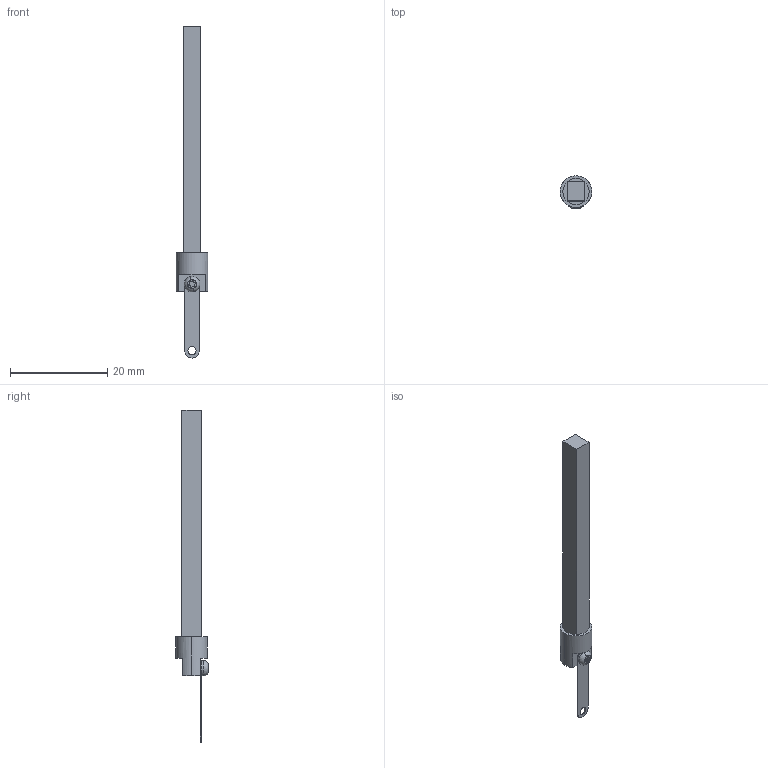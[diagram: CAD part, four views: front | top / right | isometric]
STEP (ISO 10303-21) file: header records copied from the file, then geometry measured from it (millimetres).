
FILE_DESCRIPTION (( 'STEP AP214' ), '1' );
FILE_NAME ('LL06_DriveRod_050M1-PiezoMotor.STEP', '2017-03-14T07:14:48', ( '' ), ( '' ), 'SwSTEP 2.0', 'SolidWorks 2016', '' );
FILE_SCHEMA (( 'AUTOMOTIVE_DESIGN' ));
Length unit declared in the file: millimetre
Products named in the file (1): LL06_DriveRod_050M1-PiezoMotor
Bounding box: 6.5 x 6.65 x 68.15 mm (x, y, z)
Volume: 881.4 mm3; surface area: 1226.1 mm2
Topology: 4 solids, 4 shells, 62 faces, 145 edges, 93 vertices
Faces by surface type: cylinder 31, plane 21, cone 8, torus 2
Entity records: 1884 total; most frequent: DIRECTION 347, CARTESIAN_POINT 299, ORIENTED_EDGE 286, EDGE_CURVE 143, AXIS2_PLACEMENT_3D 141, VERTEX_POINT 93, CIRCLE 78, EDGE_LOOP 72
